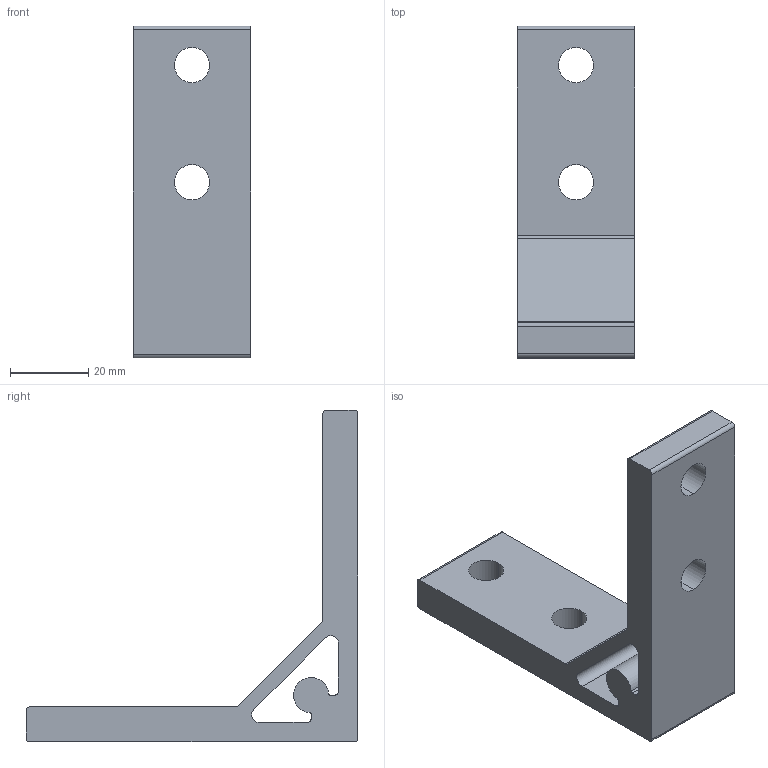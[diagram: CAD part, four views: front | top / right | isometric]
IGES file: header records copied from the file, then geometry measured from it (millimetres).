
Start section: SolidWorks IGES file using analytic representation for surfaces
Global section: file name: C:\Documents and Settings\Administrator\デスクトップ\指定保存後4回目\SolidWorks\SF\SF40・45\Bracket\ハードブラケットLW\SFJ-N19.IGS,41HSolidWorks 2006 by; native system: SolidWorks Corporation; preprocessor: SolidWorks 2006 by SolidWorks Corporation; author: Administrator; date: 061218.101119; units: millimetre
Bounding box: 30 x 85 x 85 mm (x, y, z)
Volume: 42209.8 mm3; surface area: 15820.2 mm2
Topology: 1 solids, 1 shells, 36 faces, 102 edges, 68 vertices
Faces by surface type: revolution 22, plane 14
